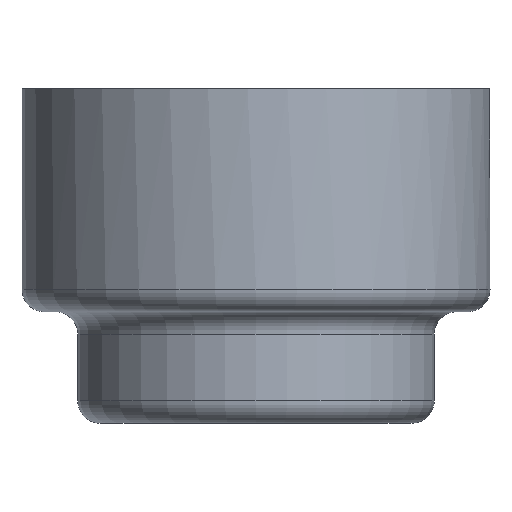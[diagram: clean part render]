
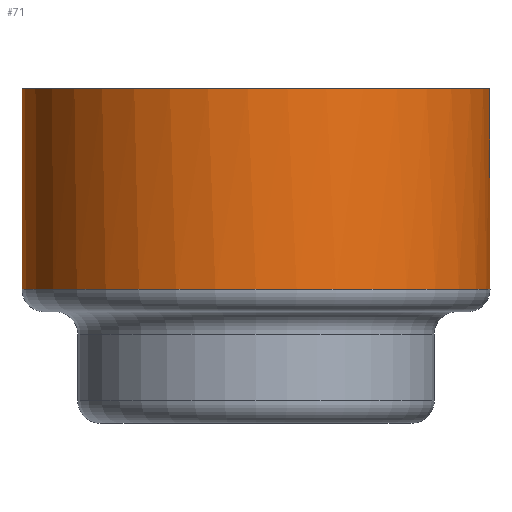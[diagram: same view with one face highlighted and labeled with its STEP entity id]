
A CAD part, front view. The second image highlights one B-rep face of the part: STEP entity #71.
In plain terms, the highlighted cylindrical face has radius 10.5 mm (diameter 21 mm), a full revolution.
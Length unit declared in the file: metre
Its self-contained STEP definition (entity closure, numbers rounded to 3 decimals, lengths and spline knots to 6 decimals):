
#71 = ADVANCED_FACE( '', ( #165, #166 ), #167, .T. );
#165 = FACE_OUTER_BOUND( '', #286, .T. );
#166 = FACE_OUTER_BOUND( '', #287, .T. );
#167 = CYLINDRICAL_SURFACE( '', #288, 0.0105 );
#286 = EDGE_LOOP( '', ( #10918 ) );
#287 = EDGE_LOOP( '', ( #10919, #10920, #10921, #10922, #10923, #10924 ) );
#288 = AXIS2_PLACEMENT_3D( '', #10925, #10926, #10927 );
#10918 = ORIENTED_EDGE( '', *, *, #11128, .T. );
#10919 = ORIENTED_EDGE( '', *, *, #11144, .F. );
#10920 = ORIENTED_EDGE( '', *, *, #11139, .T. );
#10921 = ORIENTED_EDGE( '', *, *, #11145, .T. );
#10922 = ORIENTED_EDGE( '', *, *, #11146, .T. );
#10923 = ORIENTED_EDGE( '', *, *, #11118, .T. );
#10924 = ORIENTED_EDGE( '', *, *, #11147, .F. );
#10925 = CARTESIAN_POINT( '', ( 0., 0., 0.008 ) );
#10926 = DIRECTION( '', ( 0., 0., 1. ) );
#10927 = DIRECTION( '', ( -1., 0., 0. ) );
#11118 = EDGE_CURVE( '', #11214, #11215, #11216, .F. );
#11128 = EDGE_CURVE( '', #11231, #11231, #11232, .F. );
#11139 = EDGE_CURVE( '', #11249, #11250, #11251, .T. );
#11144 = EDGE_CURVE( '', #11249, #11258, #11259, .F. );
#11145 = EDGE_CURVE( '', #11250, #11260, #11261, .T. );
#11146 = EDGE_CURVE( '', #11260, #11214, #11262, .T. );
#11147 = EDGE_CURVE( '', #11258, #11215, #11263, .T. );
#11214 = VERTEX_POINT( '', #11355 );
#11215 = VERTEX_POINT( '', #11356 );
#11216 = LINE( '', #11357, #11358 );
#11231 = VERTEX_POINT( '', #11383 );
#11232 = CIRCLE( '', #11384, 0.0105 );
#11249 = VERTEX_POINT( '', #11401 );
#11250 = VERTEX_POINT( '', #11402 );
#11251 = B_SPLINE_CURVE_WITH_KNOTS( '', 3, ( #11403, #11404, #11405, #11406, #11407, #11408, #11409, #11410 ), .UNSPECIFIED., .F., .F., ( 4, 2, 2, 4 ), ( 0., 0.000391, 0.000782, 0.001563 ), .UNSPECIFIED. );
#11258 = VERTEX_POINT( '', #11419 );
#11259 = LINE( '', #11420, #11421 );
#11260 = VERTEX_POINT( '', #11422 );
#11261 = CIRCLE( '', #11423, 0.0105 );
#11262 = B_SPLINE_CURVE_WITH_KNOTS( '', 3, ( #11424, #11425, #11426, #11427, #11428, #11429, #11430, #11431 ), .UNSPECIFIED., .F., .F., ( 4, 2, 2, 4 ), ( 0., 0.000391, 0.000782, 0.001563 ), .UNSPECIFIED. );
#11263 = CIRCLE( '', #11432, 0.0105 );
#11355 = CARTESIAN_POINT( '', ( 0.001125, 0.01044, -0.007 ) );
#11356 = CARTESIAN_POINT( '', ( 0.001125, 0.01044, 0. ) );
#11357 = CARTESIAN_POINT( '', ( 0.001125, 0.01044, 0.008 ) );
#11358 = VECTOR( '', #11787, 1. );
#11383 = CARTESIAN_POINT( '', ( -0.0105, 0., -0.009 ) );
#11384 = AXIS2_PLACEMENT_3D( '', #11795, #11796, #11797 );
#11401 = CARTESIAN_POINT( '', ( -0.001125, 0.01044, -0.007 ) );
#11402 = CARTESIAN_POINT( '', ( -0.000125, 0.010499, -0.008 ) );
#11403 = CARTESIAN_POINT( '', ( -0.001125, 0.01044, -0.007 ) );
#11404 = CARTESIAN_POINT( '', ( -0.001125, 0.01044, -0.007132 ) );
#11405 = CARTESIAN_POINT( '', ( -0.001099, 0.010442, -0.007262 ) );
#11406 = CARTESIAN_POINT( '', ( -0.000999, 0.010453, -0.007504 ) );
#11407 = CARTESIAN_POINT( '', ( -0.000924, 0.01046, -0.007615 ) );
#11408 = CARTESIAN_POINT( '', ( -0.000648, 0.010482, -0.007891 ) );
#11409 = CARTESIAN_POINT( '', ( -0.000389, 0.010496, -0.008 ) );
#11410 = CARTESIAN_POINT( '', ( -0.000125, 0.010499, -0.008 ) );
#11419 = CARTESIAN_POINT( '', ( -0.001125, 0.01044, 0. ) );
#11420 = CARTESIAN_POINT( '', ( -0.001125, 0.01044, 0.008 ) );
#11421 = VECTOR( '', #11821, 1. );
#11422 = CARTESIAN_POINT( '', ( 0.000125, 0.010499, -0.008 ) );
#11423 = AXIS2_PLACEMENT_3D( '', #11822, #11823, #11824 );
#11424 = CARTESIAN_POINT( '', ( 0.000125, 0.010499, -0.008 ) );
#11425 = CARTESIAN_POINT( '', ( 0.000257, 0.010498, -0.008 ) );
#11426 = CARTESIAN_POINT( '', ( 0.000387, 0.010494, -0.007974 ) );
#11427 = CARTESIAN_POINT( '', ( 0.000629, 0.010482, -0.007874 ) );
#11428 = CARTESIAN_POINT( '', ( 0.00074, 0.010474, -0.007799 ) );
#11429 = CARTESIAN_POINT( '', ( 0.001016, 0.010452, -0.007523 ) );
#11430 = CARTESIAN_POINT( '', ( 0.001125, 0.01044, -0.007264 ) );
#11431 = CARTESIAN_POINT( '', ( 0.001125, 0.01044, -0.007 ) );
#11432 = AXIS2_PLACEMENT_3D( '', #11825, #11826, #11827 );
#11787 = DIRECTION( '', ( 0., 0., -1. ) );
#11795 = CARTESIAN_POINT( '', ( 0., 0., -0.009 ) );
#11796 = DIRECTION( '', ( 0., 0., -1. ) );
#11797 = DIRECTION( '', ( -1., 0., 0. ) );
#11821 = DIRECTION( '', ( 0., 0., -1. ) );
#11822 = CARTESIAN_POINT( '', ( 0., 0., -0.008 ) );
#11823 = DIRECTION( '', ( 0., 0., -1. ) );
#11824 = DIRECTION( '', ( -1., 0., 0. ) );
#11825 = CARTESIAN_POINT( '', ( 0., 0., 0. ) );
#11826 = DIRECTION( '', ( 0., 0., 1. ) );
#11827 = DIRECTION( '', ( 1., 0., 0. ) );
